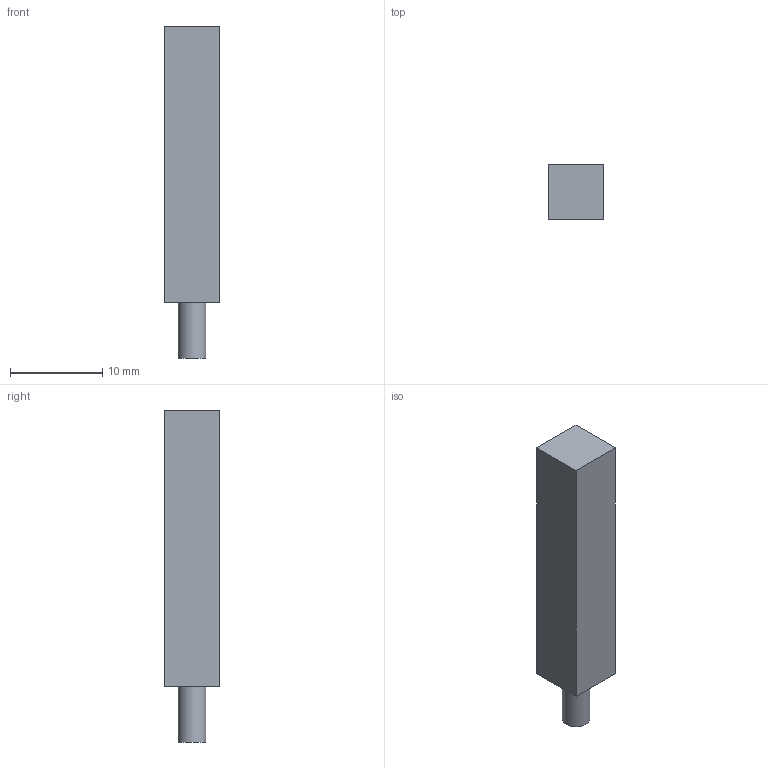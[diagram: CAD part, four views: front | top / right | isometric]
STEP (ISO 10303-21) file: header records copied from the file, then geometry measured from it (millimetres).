
FILE_DESCRIPTION( ( 'Unknown' ), '1' );
FILE_NAME( '//baumerholding.org/frauenfeld/bereich/BECH/Services/me_CAD/Solid Edge/Models/Dokumentationen/Induktiv/IxFx 06/Vereinfachte Modelle/Neutralformate/IFFM 06xxxA1_O1L.stp', 'Unknown', ( 'Unknown' ), ( 'Unknown' ), 'XStep 1.0', 'Unknown', ' ' );
FILE_SCHEMA( ( 'CONFIG_CONTROL_DESIGN' ) );
Length unit declared in the file: millimetre
Products named in the file (1): 146022
Bounding box: 6 x 6 x 36 mm (x, y, z)
Volume: 1121.6 mm3; surface area: 855.8 mm2
Topology: 1 solids, 1 shells, 15 faces, 28 edges, 19 vertices
Faces by surface type: plane 10, cylinder 3, cone 1, torus 1
Full cylindrical faces by diameter (mm): 3 x1, 3.9 x1, 4 x1
Entity records: 380 total; most frequent: DIRECTION 62, CARTESIAN_POINT 54, ORIENTED_EDGE 42, AXIS2_PLACEMENT_3D 25, EDGE_LOOP 24, EDGE_CURVE 21, FACE_OUTER_BOUND 19, VERTEX_POINT 17
